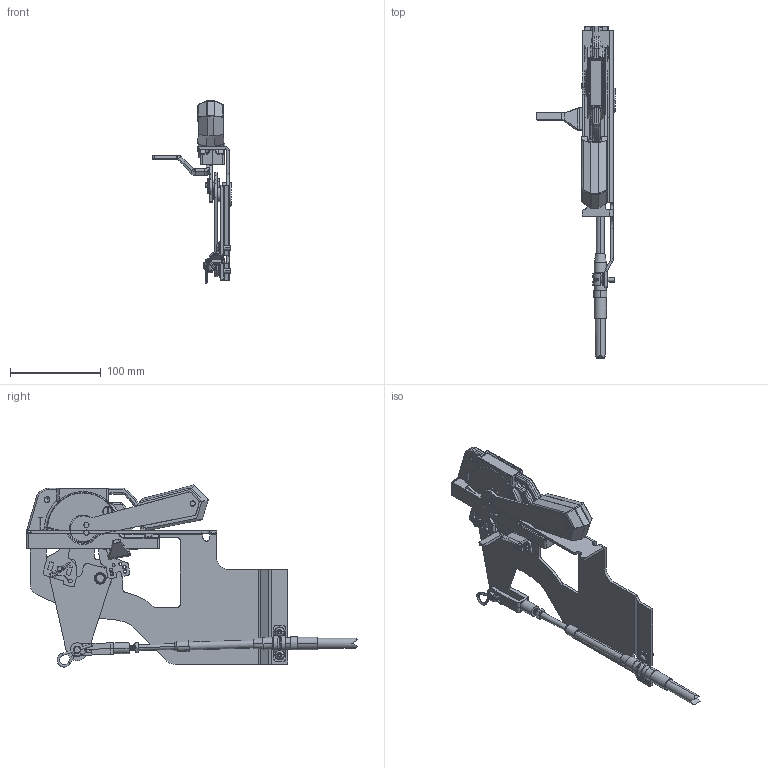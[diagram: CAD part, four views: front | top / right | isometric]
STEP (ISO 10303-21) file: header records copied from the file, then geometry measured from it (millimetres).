
FILE_DESCRIPTION((''),'2;1');
FILE_NAME('10002551385_ASM','2025-05-21T07:40:53',('LEQuenti'),('Rockwell Automation'),'CREO PARAMETRIC BY PTC INC, 2022424','CREO PARAMETRIC BY PTC INC, 2022424','');
FILE_SCHEMA(('AUTOMOTIVE_DESIGN { 1 0 10303 214 1 1 1 1 }'));
Length unit declared in the file: inch
Products named in the file (45): 10002548110; 10002550516; 10002550769_ASM; 10002548426; 10000787099; 10002160943; 10001568926; 10002549093_ASM; 40394-4039402902-PRT; 40394-027; F-14733; 40394-4039433951_ASM; 40394-031; 40394-4039403301; 40394-4039402602; 40394-4039403701; 40394-4039403702; 28406-2840650001; 40394-4039402303; 40394-4039409503; B-36118; M-7196; 40392-083; 40392-301_ASM; 40394-4039402202; 40011-4001104101; 28319-2831990501; 40026-4002606402; 40394-4039430854_ASM; 40392-036-BENT; M-7071; 335264; 10001522073; 10001522072; 10001522071; 41021-M7; 10001522108; 10003024245; 28459-352; 10003024246_ASM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
Assembly tree (57 placements, depth 4):
  10002551385_ASM
    10002550769_ASM
      10002548110
      10002550516
    10002549093_ASM
      10002548426
      10000787099
      10002160943
      10001568926
    40394-4039430854_ASM
      40394-4039402902-PRT
      40394-4039433951_ASM
        40394-027
        F-14733  x2
      40394-031
      40394-4039403301  x2
      40394-4039402602  x2
      40394-4039403701
      40394-4039403702
      28406-2840650001  x3
      40392-301_ASM
        40394-4039402303  x2
        40394-4039409503  x2
        B-36118
        M-7196  x2
        40392-083
      40394-4039402202
      40011-4001104101
      28319-2831990501  x2
      40026-4002606402
    40392-036-BENT
    M-7071
    335264  x2
    10002551418_ASM
      10001522073
      10001522072
      10001522071
      41021-M7
      10003024246_ASM
        10001522108
        10003024245
        28459-352
    10002601888
    10000136317  x2
    41022-197
    41021-M7  x2
Bounding box: 86.37 x 365.18 x 200.42 mm (x, y, z)
Volume: 328224.1 mm3; surface area: 203668.1 mm2
Topology: 50 solids, 59 shells, 2018 faces, 4886 edges, 3017 vertices
Faces by surface type: cylinder 864, plane 642, bspline 249, torus 151, cone 100, sphere 12
Full cylindrical faces by diameter (mm): 15.088 x1
Entity records: 85177 total; most frequent: CARTESIAN_POINT 33356, DIRECTION 8480, ORIENTED_EDGE 8450, EDGE_CURVE 4241, AXIS2_PLACEMENT_3D 3262, PRESENTATION_STYLE_ASSIGNMENT 2798, STYLED_ITEM 2777, CURVE_STYLE 2721
